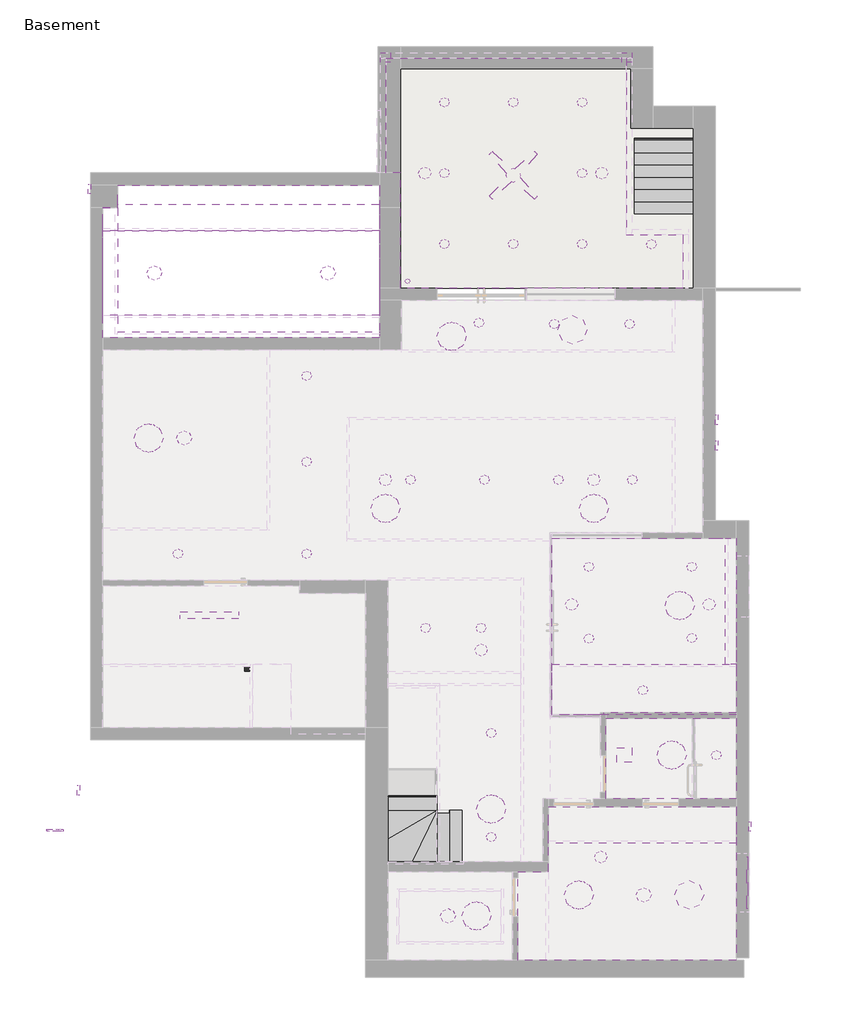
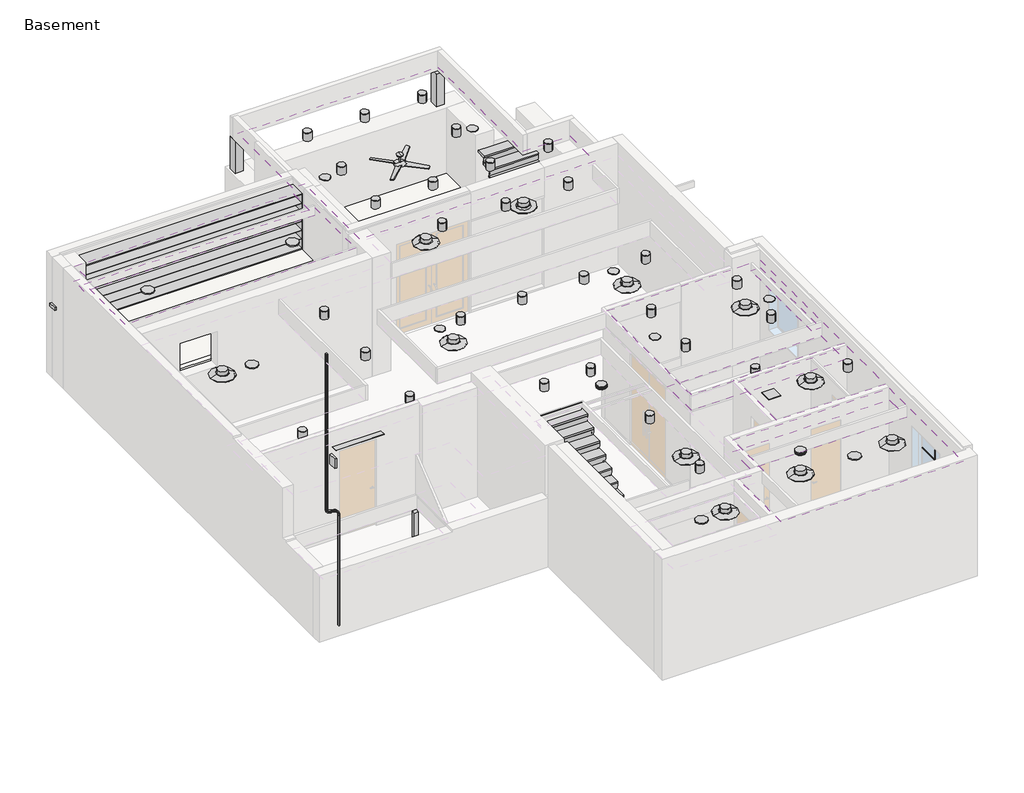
# One storey, part 3 of 3: 33 light fixtures, 33 proxies, 9 coverings, 3 columns, 3 slabs, 2 stair flights, 1 furniture element.
"""IFC4 building model written with IfcOpenShell, lengths in millimetres."""

from ifc_helpers import new_model, si_unit, point, frame, frame_2d, origin, place, context, project, spatial, polyline, circle_curve, trimmed, segment, composite_curve, outline, extrude, faceted_brep, transform, mapped, element, save
from components import generic_models_a077fc04, generic_models_1db58095, proxy_8f18e016, default_1_231b9623, downspout_downspout_4650_cdd577da, exhaust_fan_default_1_e91b617f, muntin_pattern_2x2_muntin_pattern_2x2_8235f178, round_air_diffuser_default_1_f7335ba9, round_air_diffuser_default_1_4e63e813, round_air_diffuser_default_1_b5902af6, security_camera_default_1_4da77557, speaker_default_1_aa482b27, wall_shelf_wall_shelf_b198690f, ceiling_fan_4_278a9ec8, linear_strip_light_default_1_7d063154, light_fixture_643521e1, light_fixture_e469d1bf, stair_flight_50mm_tread_25mm_nosing_13mm_riser_da69991a, stair_flight_50mm_tread_25mm_nosing_13mm_riser_1c29f03d

model = new_model("IFC4")

# Units and contexts
model_context = context("Model", 3, world=origin())
ifc_project = project(units=[si_unit("LENGTHUNIT", "METRE", prefix="MILLI")], contexts=[model_context])

# Site, building, storey
site = spatial("IfcSite", under=ifc_project)
building = spatial("IfcBuilding", under=site)
storey = spatial("IfcBuildingStorey", under=building, Name="Basement", Elevation=-3175.0)

# Proxies
placement = place(None, origin())
generic_models_shape = generic_models_a077fc04(model_context)
element("IfcBuildingElementProxy", 1, Name="Wall  Protrusion : Wall  Protrusion", ObjectType="Wall  Protrusion : Wall  Protrusion", at=placement, inside=storey, context=model_context, shape_type="MappedRepresentation", body=[
    mapped(generic_models_shape, transform((20984.4517773, 10222.2013405, -609.6), x_axis=(0.0, 1.0, 0.0), y_axis=(0.0, 0.0, 1.0), z_axis=(1.0, 0.0, 0.0))),
])
element("IfcBuildingElementProxy", 2, Name="Wall  Protrusion : Wall  Protrusion", ObjectType="Wall  Protrusion : Wall  Protrusion", at=placement, inside=storey, context=model_context, shape_type="MappedRepresentation", body=[
    mapped(generic_models_shape, transform((20984.4517773, 10755.6409405, -609.6), x_axis=(0.0, 1.0, 0.0), y_axis=(0.0, 0.0, 1.0), z_axis=(1.0, 0.0, 0.0))),
])
element("IfcBuildingElementProxy", 3, Name="Wall  Protrusion : Wall  Protrusion", ObjectType="Wall  Protrusion : Wall  Protrusion", at=placement, inside=storey, context=model_context, shape_type="MappedRepresentation", body=[
    mapped(generic_models_shape, transform((7814.4549773, 3078.4909405, 2320.0), x_axis=(0.0, -1.0, 0.0), y_axis=(0.0, 0.0, 1.0), z_axis=(-1.0, 0.0, 0.0))),
])
generic_models_2_shape = generic_models_1db58095(model_context)
element("IfcBuildingElementProxy", 4, Name="Wall  Protrusion : Wall  Protrusion", ObjectType="Wall  Protrusion : Wall  Protrusion", at=placement, inside=storey, context=model_context, shape_type="MappedRepresentation", body=[
    mapped(generic_models_2_shape, transform((21676.6017773, 2329.1909405, -135.0), x_axis=(0.0, 1.0, 0.0), y_axis=(0.0, 0.0, 1.0), z_axis=(1.0, 0.0, 0.0))),
])
element("IfcBuildingElementProxy", 5, Name="Wall  Protrusion : Wall  Protrusion", ObjectType="Wall  Protrusion : Wall  Protrusion", at=placement, inside=storey, context=model_context, shape_type="MappedRepresentation", body=[
    mapped(generic_models_2_shape, transform((8043.1517773, 15532.4409405, -1244.6), x_axis=(0.0, -1.0, 0.0), y_axis=(0.0, 0.0, 1.0), z_axis=(-1.0, 0.0, 0.0))),
])
proxy_shape = proxy_8f18e016(model_context)
element("IfcBuildingElementProxy", 6, Name="Ceiling Mounted Light : 2'-0\"", ObjectType="Ceiling Mounted Light : 2'-0\"", at=placement, inside=storey, context=model_context, shape_type="MappedRepresentation", body=[
    mapped(proxy_shape, transform((9980.1974773, 10374.6409405, -2768.6), x_axis=(1.0, 0.0, 0.0), y_axis=(0.0, 1.0, 0.0), z_axis=(0.0, 0.0, 1.0))),
])
element("IfcBuildingElementProxy", 7, Name="Ceiling Mounted Light : 2'-0\"", ObjectType="Ceiling Mounted Light : 2'-0\"", at=placement, inside=storey, context=model_context, shape_type="MappedRepresentation", body=[
    mapped(proxy_shape, transform((19504.9017773, 913.1409405, -2768.6), x_axis=(1.0, 0.0, 0.0), y_axis=(0.0, 1.0, 0.0), z_axis=(0.0, 0.0, 1.0))),
])
element("IfcBuildingElementProxy", 8, Name="Ceiling Mounted Light : 2'-0\"", ObjectType="Ceiling Mounted Light : 2'-0\"", at=placement, inside=storey, context=model_context, shape_type="MappedRepresentation", body=[
    mapped(proxy_shape, transform((15447.2517773, 481.3409405, -2768.6), x_axis=(1.0, 0.0, 0.0), y_axis=(0.0, 1.0, 0.0), z_axis=(0.0, 0.0, 1.0))),
])
element("IfcBuildingElementProxy", 9, Name="Ceiling Mounted Light : 2'-0\"", ObjectType="Ceiling Mounted Light : 2'-0\"", at=placement, inside=storey, context=model_context, shape_type="MappedRepresentation", body=[
    mapped(proxy_shape, transform((9363.9517773, 13794.1159405, -2667.0), x_axis=(1.0, 0.0, 0.0), y_axis=(0.0, 1.0, 0.0), z_axis=(0.0, 0.0, 1.0))),
])
element("IfcBuildingElementProxy", 10, Name="Ceiling Mounted Light : 2'-0\"", ObjectType="Ceiling Mounted Light : 2'-0\"", at=placement, inside=storey, context=model_context, shape_type="MappedRepresentation", body=[
    mapped(proxy_shape, transform((12960.4174773, 13794.1159405, -2667.0), x_axis=(1.0, 0.0, 0.0), y_axis=(0.0, 1.0, 0.0), z_axis=(0.0, 0.0, 1.0))),
])
default_1_shape = default_1_231b9623(model_context)
element("IfcBuildingElementProxy", 11, Name="Smoke & Carbon Monoxide Detector : Default 1", ObjectType="Smoke & Carbon Monoxide Detector : Default 1", at=placement, inside=storey, context=model_context, shape_type="MappedRepresentation", body=[
    mapped(default_1_shape, transform((16133.0517773, 5986.7909405, -2768.6), x_axis=(1.0, 0.0, 0.0), y_axis=(0.0, 1.0, 0.0), z_axis=(0.0, 0.0, 1.0))),
])
element("IfcBuildingElementProxy", 12, Name="Smoke & Carbon Monoxide Detector : Default 1", ObjectType="Smoke & Carbon Monoxide Detector : Default 1", at=placement, inside=storey, context=model_context, shape_type="MappedRepresentation", body=[
    mapped(default_1_shape, transform((18615.9017773, 1700.5409405, -2768.6), x_axis=(1.0, 0.0, 0.0), y_axis=(0.0, 1.0, 0.0), z_axis=(0.0, 0.0, 1.0))),
])
downspout_downspout_4650_shape = downspout_downspout_4650_cdd577da(model_context)
element("IfcBuildingElementProxy", 13, Name="Downspout : Downspout_4650", ObjectType="Downspout : Downspout_4650", at=placement, inside=storey, context=model_context, shape_type="MappedRepresentation", body=[
    mapped(downspout_downspout_4650_shape, transform((7452.5049773, 2252.9909405, -1371.6), x_axis=(0.0, -1.0, 0.0), y_axis=(1.0, 0.0, 0.0), z_axis=(0.0, 0.0, 1.0))),
])
exhaust_fan_default_1_shape = exhaust_fan_default_1_e91b617f(model_context)
element("IfcBuildingElementProxy", 14, Name="Exhaust Fan : Default 1", ObjectType="Exhaust Fan : Default 1", at=placement, inside=storey, context=model_context, shape_type="MappedRepresentation", body=[
    mapped(exhaust_fan_default_1_shape, transform((19104.8517773, 3808.7409405, -2768.6), x_axis=(1.0, 0.0, 0.0), y_axis=(0.0, 1.0, 0.0), z_axis=(0.0, 0.0, 1.0))),
])
muntin_pattern_2x2_muntin_pattern_2x2_shape = muntin_pattern_2x2_muntin_pattern_2x2_8235f178(model_context)
element("IfcBuildingElementProxy", 15, Name="Muntin Pattern_2x2 : Muntin Pattern_2x2", ObjectType="Muntin Pattern_2x2 : Muntin Pattern_2x2", at=placement, inside=storey, context=model_context, shape_type="MappedRepresentation", body=[
    mapped(muntin_pattern_2x2_muntin_pattern_2x2_shape, transform((21667.0767773, 1167.1409405, -1885.95), x_axis=(0.0, -1.0, 0.0), y_axis=(1.0, 0.0, 0.0), z_axis=(0.0, 0.0, 1.0))),
])
round_air_diffuser_default_1_shape = round_air_diffuser_default_1_f7335ba9(model_context)
element("IfcBuildingElementProxy", 16, Name="Round Air Diffuser : Default 1", ObjectType="Round Air Diffuser : Default 1", at=placement, inside=storey, context=model_context, shape_type="MappedRepresentation", body=[
    mapped(round_air_diffuser_default_1_shape, transform((16037.8017773, 481.3409405, -2768.6), x_axis=(1.0, 0.0, 0.0), y_axis=(0.0, 1.0, 0.0), z_axis=(0.0, 0.0, 1.0))),
])
element("IfcBuildingElementProxy", 17, Name="Round Air Diffuser : Default 1", ObjectType="Round Air Diffuser : Default 1", at=placement, inside=storey, context=model_context, shape_type="MappedRepresentation", body=[
    mapped(round_air_diffuser_default_1_shape, transform((18158.7017773, 913.1409405, -2768.6), x_axis=(1.0, 0.0, 0.0), y_axis=(0.0, 1.0, 0.0), z_axis=(0.0, 0.0, 1.0))),
])
element("IfcBuildingElementProxy", 18, Name="Round Air Diffuser : Default 1", ObjectType="Round Air Diffuser : Default 1", at=placement, inside=storey, context=model_context, shape_type="MappedRepresentation", body=[
    mapped(round_air_diffuser_default_1_shape, transform((20082.7517773, 3808.7409405, -2768.6), x_axis=(1.0, 0.0, 0.0), y_axis=(0.0, 1.0, 0.0), z_axis=(0.0, 0.0, 1.0))),
])
element("IfcBuildingElementProxy", 19, Name="Round Air Diffuser : Default 1", ObjectType="Round Air Diffuser : Default 1", at=placement, inside=storey, context=model_context, shape_type="MappedRepresentation", body=[
    mapped(round_air_diffuser_default_1_shape, transform((20247.8517773, 6906.0206405, -2768.6), x_axis=(1.0, 0.0, 0.0), y_axis=(0.0, 1.0, 0.0), z_axis=(0.0, 0.0, 1.0))),
])
element("IfcBuildingElementProxy", 20, Name="Round Air Diffuser : Default 1", ObjectType="Round Air Diffuser : Default 1", at=placement, inside=storey, context=model_context, shape_type="MappedRepresentation", body=[
    mapped(round_air_diffuser_default_1_shape, transform((14151.8517773, 8920.4909405, -2768.6), x_axis=(1.0, 0.0, 0.0), y_axis=(0.0, 1.0, 0.0), z_axis=(0.0, 0.0, 1.0))),
])
element("IfcBuildingElementProxy", 21, Name="Round Air Diffuser : Default 1", ObjectType="Round Air Diffuser : Default 1", at=placement, inside=storey, context=model_context, shape_type="MappedRepresentation", body=[
    mapped(round_air_diffuser_default_1_shape, transform((18469.8517773, 8920.4909405, -2768.6), x_axis=(1.0, 0.0, 0.0), y_axis=(0.0, 1.0, 0.0), z_axis=(0.0, 0.0, 1.0))),
])
element("IfcBuildingElementProxy", 22, Name="Round Air Diffuser : Default 1", ObjectType="Round Air Diffuser : Default 1", at=placement, inside=storey, context=model_context, shape_type="MappedRepresentation", body=[
    mapped(round_air_diffuser_default_1_shape, transform((15523.4517773, 12482.8409405, -2768.6), x_axis=(1.0, 0.0, 0.0), y_axis=(0.0, 1.0, 0.0), z_axis=(0.0, 0.0, 1.0))),
])
element("IfcBuildingElementProxy", 23, Name="Round Air Diffuser : Default 1", ObjectType="Round Air Diffuser : Default 1", at=placement, inside=storey, context=model_context, shape_type="MappedRepresentation", body=[
    mapped(round_air_diffuser_default_1_shape, transform((9243.5974773, 10374.6409405, -2768.6), x_axis=(1.0, 0.0, 0.0), y_axis=(0.0, 1.0, 0.0), z_axis=(0.0, 0.0, 1.0))),
])
element("IfcBuildingElementProxy", 24, Name="Round Air Diffuser : Default 1", ObjectType="Round Air Diffuser : Default 1", at=placement, inside=storey, context=model_context, shape_type="MappedRepresentation", body=[
    mapped(round_air_diffuser_default_1_shape, transform((16342.6017773, 2691.1409405, -2768.6), x_axis=(1.0, 0.0, 0.0), y_axis=(0.0, 1.0, 0.0), z_axis=(0.0, 0.0, 1.0))),
])
round_air_diffuser_default_1_2_shape = round_air_diffuser_default_1_4e63e813(model_context)
element("IfcBuildingElementProxy", 25, Name="Round Air Diffuser : Default 1", ObjectType="Round Air Diffuser : Default 1", at=placement, inside=storey, context=model_context, shape_type="MappedRepresentation", body=[
    mapped(round_air_diffuser_default_1_2_shape, transform((20444.7017773, 913.1409405, -2768.6), x_axis=(-1.0, 0.0, 0.0), y_axis=(0.0, -1.0, 0.0), z_axis=(0.0, 0.0, 1.0))),
])
round_air_diffuser_default_1_3_shape = round_air_diffuser_default_1_b5902af6(model_context)
element("IfcBuildingElementProxy", 26, Name="Round Air Diffuser : Default 1", ObjectType="Round Air Diffuser : Default 1", at=placement, inside=storey, context=model_context, shape_type="MappedRepresentation", body=[
    mapped(round_air_diffuser_default_1_3_shape, transform((18027.3164049, 12482.8409405, -2768.6), x_axis=(1.0, 0.0, 0.0), y_axis=(0.0, 1.0, 0.0), z_axis=(0.0, 0.0, 1.0))),
])
security_camera_default_1_shape = security_camera_default_1_4da77557(model_context)
element("IfcBuildingElementProxy", 27, Name="Security Camera : Default 1", ObjectType="Security Camera : Default 1", at=placement, inside=storey, context=model_context, shape_type="MappedRepresentation", body=[
    mapped(security_camera_default_1_shape, transform((15066.2517773, 13371.8409405, -2921.0), x_axis=(0.0, 1.0, 0.0), y_axis=(-1.0, 0.0, 0.0), z_axis=(0.0, 0.0, 1.0))),
])
speaker_default_1_shape = speaker_default_1_aa482b27(model_context)
element("IfcBuildingElementProxy", 28, Name="Speaker : Default 1", ObjectType="Speaker : Default 1", at=placement, inside=storey, context=model_context, shape_type="MappedRepresentation", body=[
    mapped(speaker_default_1_shape, transform((14151.8517773, 9511.0409405, -2768.6), x_axis=(0.0, 1.0, 0.0), y_axis=(-1.0, 0.0, 0.0), z_axis=(0.0, 0.0, 1.0))),
])
element("IfcBuildingElementProxy", 29, Name="Speaker : Default 1", ObjectType="Speaker : Default 1", at=placement, inside=storey, context=model_context, shape_type="MappedRepresentation", body=[
    mapped(speaker_default_1_shape, transform((18469.8517773, 9511.0409405, -2768.6), x_axis=(0.0, 1.0, 0.0), y_axis=(-1.0, 0.0, 0.0), z_axis=(0.0, 0.0, 1.0))),
])
element("IfcBuildingElementProxy", 30, Name="Speaker : Default 1", ObjectType="Speaker : Default 1", at=placement, inside=storey, context=model_context, shape_type="MappedRepresentation", body=[
    mapped(speaker_default_1_shape, transform((18634.9517773, 15861.0409405, -2921.0), x_axis=(0.0, 1.0, 0.0), y_axis=(-1.0, 0.0, 0.0), z_axis=(0.0, 0.0, 1.0))),
])
element("IfcBuildingElementProxy", 31, Name="Speaker : Default 1", ObjectType="Speaker : Default 1", at=placement, inside=storey, context=model_context, shape_type="MappedRepresentation", body=[
    mapped(speaker_default_1_shape, transform((14967.0174773, 15861.0409405, -2921.0), x_axis=(0.0, 1.0, 0.0), y_axis=(-1.0, 0.0, 0.0), z_axis=(0.0, 0.0, 1.0))),
])
element("IfcBuildingElementProxy", 32, Name="Speaker : Default 1", ObjectType="Speaker : Default 1", at=placement, inside=storey, context=model_context, shape_type="MappedRepresentation", body=[
    mapped(speaker_default_1_shape, transform((18012.6517773, 6931.4206405, -2768.6), x_axis=(0.0, 1.0, 0.0), y_axis=(-1.0, 0.0, 0.0), z_axis=(0.0, 0.0, 1.0))),
])
element("IfcBuildingElementProxy", 33, Name="Speaker : Default 1", ObjectType="Speaker : Default 1", at=placement, inside=storey, context=model_context, shape_type="MappedRepresentation", body=[
    mapped(speaker_default_1_shape, transform((20857.4517773, 6931.4206405, -2768.6), x_axis=(0.0, 1.0, 0.0), y_axis=(-1.0, 0.0, 0.0), z_axis=(0.0, 0.0, 1.0))),
])

# Columns
element("IfcColumn", 34, ObjectType="Rectangular Column 3D : Default 1", at=placement, inside=storey, context=model_context, shape_type="SweptSolid", body=[
    extrude(outline(polyline([(11332.4517773, 5643.8909405), (11332.4517773, 5542.2909405), (11230.8517773, 5542.2909405), (11230.8517773, 5643.8909405), (11332.4517773, 5643.8909405)])), frame((0.0, 0.0, -3175.0), z_axis=(0.0, 0.0, 1.0), x_axis=(1.0, 0.0, 0.0)), (0.0, 0.0, 1.0), 1422.4),
])
element("IfcColumn", 35, ObjectType="Rectangular Column 3D : Default 1", at=placement, inside=storey, context=model_context, shape_type="SweptSolid", body=[
    extrude(outline(polyline([(14253.4517773, 18356.5909405), (14253.4517773, 18153.3909405), (14050.2517773, 18153.3909405), (14050.2517773, 18356.5909405), (14253.4517773, 18356.5909405)])), frame((0.0, 0.0, -1447.8), z_axis=(0.0, 0.0, 1.0), x_axis=(1.0, 0.0, 0.0)), (0.0, 0.0, 1.0), 863.6),
])
element("IfcColumn", 36, ObjectType="Rectangular Column 3D : Default 1", at=placement, inside=storey, context=model_context, shape_type="SweptSolid", body=[
    extrude(outline(polyline([(19257.2517773, 18356.5909405), (19257.2517773, 18153.3909405), (19054.0517773, 18153.3909405), (19054.0517773, 18356.5909405), (19257.2517773, 18356.5909405)])), frame((0.0, 0.0, -1447.8), z_axis=(0.0, 0.0, 1.0), x_axis=(1.0, 0.0, 0.0)), (0.0, 0.0, 1.0), 863.6),
])

# Coverings
element("IfcCovering", 37, ObjectType="1/2\" Ceiling", at=placement, inside=storey, context=model_context, shape_type="SweptSolid", body=[
    extrude(outline(polyline([(21422.6017773, 2741.9409405), (21422.6017773, -439.4090595), (16895.0517773, -439.4090595), (16895.0517773, 1395.7409405), (17530.0517773, 1395.7409405), (17530.0517773, 2741.9409405), (21422.6017773, 2741.9409405)])), frame((0.0, 0.0, -330.2), z_axis=(0.0, 0.0, 1.0), x_axis=(1.0, 0.0, 0.0)), (0.0, 0.0, 1.0), 12.7),
])
element("IfcCovering", 38, ObjectType="1/2\" Ceiling", at=placement, inside=storey, context=model_context, shape_type="SweptSolid", body=[
    extrude(outline(polyline([(21422.6017773, 2907.0409405), (18723.8517773, 2907.0409405), (18723.8517773, 4570.7409405), (21422.6017773, 4570.7409405), (21422.6017773, 2907.0409405)]), holes=[composite_curve([segment(trimmed(circle_curve(frame_2d((21009.8517773, 3808.7409405)), 87.3), [point((21097.1517773, 3808.7409405))], [point((20922.5517773, 3808.7409405))], True, "CARTESIAN"), True, "CONTINUOUS"), segment(trimmed(circle_curve(frame_2d((21009.8517773, 3808.7409405)), 87.3), [point((20922.5517773, 3808.7409405))], [point((21097.1517773, 3808.7409405))], True, "CARTESIAN"), True, "CONTINUOUS")], self_intersect=False)]), frame((0.0, 0.0, -330.2), z_axis=(0.0, 0.0, 1.0), x_axis=(1.0, 0.0, 0.0)), (0.0, 0.0, 1.0), 12.7),
])
element("IfcCovering", 39, ObjectType="1/2\" Ceiling", at=placement, inside=storey, context=model_context, shape_type="SweptSolid", body=[
    extrude(outline(polyline([(19460.4517773, 8304.5409405), (20857.4517773, 8304.5409405), (21422.6017773, 8304.5409405), (21422.6017773, 4685.0409405), (18666.7017773, 4685.0409405), (18666.7017773, 4646.9409405), (17606.2517773, 4646.9409405), (17606.2517773, 8304.5409405), (19460.4517773, 8304.5409405)]), holes=[composite_curve([segment(trimmed(circle_curve(frame_2d((18368.2517773, 7707.6409405)), 87.3), [point((18455.5517773, 7707.6409405))], [point((18280.9517773, 7707.6409405))], True, "CARTESIAN"), True, "CONTINUOUS"), segment(trimmed(circle_curve(frame_2d((18368.2517773, 7707.6409405)), 87.3), [point((18280.9517773, 7707.6409405))], [point((18455.5517773, 7707.6409405))], True, "CARTESIAN"), True, "CONTINUOUS")], self_intersect=False), composite_curve([segment(trimmed(circle_curve(frame_2d((20501.8517773, 7707.6409405)), 87.3), [point((20589.1517773, 7707.6409405))], [point((20414.5517773, 7707.6409405))], True, "CARTESIAN"), True, "CONTINUOUS"), segment(trimmed(circle_curve(frame_2d((20501.8517773, 7707.6409405)), 87.3), [point((20414.5517773, 7707.6409405))], [point((20589.1517773, 7707.6409405))], True, "CARTESIAN"), True, "CONTINUOUS")], self_intersect=False), composite_curve([segment(trimmed(circle_curve(frame_2d((20501.8517773, 6234.4409405)), 87.3), [point((20414.5517773, 6234.4409405))], [point((20589.1517773, 6234.4409405))], True, "CARTESIAN"), True, "CONTINUOUS"), segment(trimmed(circle_curve(frame_2d((20501.8517773, 6234.4409405)), 87.3), [point((20589.1517773, 6234.4409405))], [point((20414.5517773, 6234.4409405))], True, "CARTESIAN"), True, "CONTINUOUS")], self_intersect=False), composite_curve([segment(trimmed(circle_curve(frame_2d((18368.2517773, 6221.7409405)), 87.3), [point((18280.9517773, 6221.7409405))], [point((18455.5517773, 6221.7409405))], True, "CARTESIAN"), True, "CONTINUOUS"), segment(trimmed(circle_curve(frame_2d((18368.2517773, 6221.7409405)), 87.3), [point((18455.5517773, 6221.7409405))], [point((18280.9517773, 6221.7409405))], True, "CARTESIAN"), True, "CONTINUOUS")], self_intersect=False)]), frame((0.0, 0.0, -330.2), z_axis=(0.0, 0.0, 1.0), x_axis=(1.0, 0.0, 0.0)), (0.0, 0.0, 1.0), 12.7),
])
element("IfcCovering", 40, ObjectType="1/2\" Ceiling", at=placement, inside=storey, context=model_context, shape_type="SweptSolid", body=[
    extrude(outline(polyline([(14027.2174773, 12457.4409405), (8297.1517773, 12457.4409405), (8297.1517773, 12914.6409405), (14027.2174773, 12914.6409405), (14027.2174773, 12457.4409405)])), frame((0.0, 0.0, -431.8), z_axis=(0.0, 0.0, 1.0), x_axis=(1.0, 0.0, 0.0)), (0.0, 0.0, 1.0), 12.7),
    extrude(outline(polyline([(8601.9517773, 15613.3909405), (14027.2174773, 15613.3909405), (14027.2174773, 14673.5909405), (8297.1517773, 14673.5909405), (8297.1517773, 15144.3463405), (8601.9517773, 15144.3463405), (8601.9517773, 15613.3909405)])), frame((0.0, 0.0, -431.8), z_axis=(0.0, 0.0, 1.0), x_axis=(1.0, 0.0, 0.0)), (0.0, 0.0, 1.0), 12.7),
])
element("IfcCovering", 41, ObjectType="1/2\" Ceiling", at=placement, inside=storey, context=model_context, shape_type="SweptSolid", body=[
    extrude(outline(polyline([(17606.2517773, 4646.9409405), (17606.2517773, 5688.3409405), (21422.6017773, 5688.3409405), (21422.6017773, 4646.9409405), (17606.2517773, 4646.9409405)]), holes=[composite_curve([segment(trimmed(circle_curve(frame_2d((19485.8517773, 5154.9409405)), 87.3), [point((19573.1517773, 5154.9409405))], [point((19398.5517773, 5154.9409405))], True, "CARTESIAN"), True, "CONTINUOUS"), segment(trimmed(circle_curve(frame_2d((19485.8517773, 5154.9409405)), 87.3), [point((19398.5517773, 5154.9409405))], [point((19573.1517773, 5154.9409405))], True, "CARTESIAN"), True, "CONTINUOUS")], self_intersect=False)]), frame((0.0, 0.0, -736.6), z_axis=(0.0, 0.0, 1.0), x_axis=(1.0, 0.0, 0.0)), (0.0, 0.0, 1.0), 12.7),
])
element("IfcCovering", 42, ObjectType="1/2\" Ceiling", at=placement, inside=storey, context=model_context, shape_type="SweptSolid", body=[
    extrude(outline(polyline([(21194.0017773, 5688.3409405), (21194.0017773, 8304.5409405), (21422.6017773, 8304.5409405), (21422.6017773, 5688.3409405), (21194.0017773, 5688.3409405)])), frame((0.0, 0.0, -533.4), z_axis=(0.0, 0.0, 1.0), x_axis=(1.0, 0.0, 0.0)), (0.0, 0.0, 1.0), 12.7),
])
element("IfcCovering", 43, ObjectType="1/2\" Ceiling", at=placement, inside=storey, context=model_context, shape_type="SweptSolid", body=[
    extrude(outline(polyline([(16895.0517773, 1395.7409405), (17530.0517773, 1395.7409405), (17530.0517773, -439.4090595), (16895.0517773, -439.4090595), (16895.0517773, 1395.7409405)])), frame((0.0, 0.0, -635.0), z_axis=(0.0, 0.0, 1.0), x_axis=(1.0, 0.0, 0.0)), (0.0, 0.0, 1.0), 12.7),
    extrude(outline(polyline([(17530.0517773, 2741.9409405), (21422.6017773, 2741.9409405), (21422.6017773, 1979.9409405), (17530.0517773, 1979.9409405), (17530.0517773, 2741.9409405)])), frame((0.0, 0.0, -635.0), z_axis=(0.0, 0.0, 1.0), x_axis=(1.0, 0.0, 0.0)), (0.0, 0.0, 1.0), 12.7),
])
element("IfcCovering", 44, ObjectType="1/2\" Ceiling", at=placement, inside=storey, context=model_context, shape_type="SweptSolid", body=[
    extrude(outline(polyline([(14027.2174773, 12914.6409405), (8297.1517773, 12914.6409405), (8297.1517773, 14673.5909405), (14027.2174773, 14673.5909405), (14027.2174773, 12914.6409405)])), frame((0.0, 0.0, -228.6), z_axis=(0.0, 0.0, 1.0), x_axis=(1.0, 0.0, 0.0)), (0.0, 0.0, 1.0), 12.7),
])
element("IfcCovering", 45, ObjectType="1/2\" Ceiling", at=placement, inside=storey, context=model_context, shape_type="SweptSolid", body=[
    extrude(outline(polyline([(20311.3517773, 13479.7909405), (14459.0174773, 13479.7909405), (14459.0174773, 15867.3909405), (14164.5517773, 15867.3909405), (14164.5517773, 18242.2909405), (14459.0174773, 18242.2909405), (19142.9517773, 18242.2909405), (19142.9517773, 14584.6909405), (20311.3517773, 14584.6909405), (20311.3517773, 13479.7909405)]), holes=[composite_curve([segment(trimmed(circle_curve(frame_2d((15373.4174773, 14394.1909405)), 87.3), [point((15460.7174773, 14394.1909405))], [point((15286.1174773, 14394.1909405))], True, "CARTESIAN"), True, "CONTINUOUS"), segment(trimmed(circle_curve(frame_2d((15373.4174773, 14394.1909405)), 87.3), [point((15286.1174773, 14394.1909405))], [point((15460.7174773, 14394.1909405))], True, "CARTESIAN"), True, "CONTINUOUS")], self_intersect=False), composite_curve([segment(trimmed(circle_curve(frame_2d((15373.4174773, 17327.8909405)), 87.3), [point((15460.7174773, 17327.8909405))], [point((15286.1174773, 17327.8909405))], True, "CARTESIAN"), True, "CONTINUOUS"), segment(trimmed(circle_curve(frame_2d((15373.4174773, 17327.8909405)), 87.3), [point((15286.1174773, 17327.8909405))], [point((15460.7174773, 17327.8909405))], True, "CARTESIAN"), True, "CONTINUOUS")], self_intersect=False), composite_curve([segment(trimmed(circle_curve(frame_2d((18228.5517773, 17327.8909405)), 87.3), [point((18315.8517773, 17327.8909405))], [point((18141.2517773, 17327.8909405))], True, "CARTESIAN"), True, "CONTINUOUS"), segment(trimmed(circle_curve(frame_2d((18228.5517773, 17327.8909405)), 87.3), [point((18141.2517773, 17327.8909405))], [point((18315.8517773, 17327.8909405))], True, "CARTESIAN"), True, "CONTINUOUS")], self_intersect=False), composite_curve([segment(trimmed(circle_curve(frame_2d((18228.5517773, 14394.1909405)), 87.3), [point((18315.8517773, 14394.1909405))], [point((18141.2517773, 14394.1909405))], True, "CARTESIAN"), True, "CONTINUOUS"), segment(trimmed(circle_curve(frame_2d((18228.5517773, 14394.1909405)), 87.3), [point((18141.2517773, 14394.1909405))], [point((18315.8517773, 14394.1909405))], True, "CARTESIAN"), True, "CONTINUOUS")], self_intersect=False), composite_curve([segment(trimmed(circle_curve(frame_2d((16800.9846273, 14394.1909405)), 87.3), [point((16888.2846273, 14394.1909405))], [point((16713.6846273, 14394.1909405))], True, "CARTESIAN"), True, "CONTINUOUS"), segment(trimmed(circle_curve(frame_2d((16800.9846273, 14394.1909405)), 87.3), [point((16713.6846273, 14394.1909405))], [point((16888.2846273, 14394.1909405))], True, "CARTESIAN"), True, "CONTINUOUS")], self_intersect=False), composite_curve([segment(trimmed(circle_curve(frame_2d((18228.5517773, 15861.0409405)), 87.3), [point((18315.8517773, 15861.0409405))], [point((18141.2517773, 15861.0409405))], True, "CARTESIAN"), True, "CONTINUOUS"), segment(trimmed(circle_curve(frame_2d((18228.5517773, 15861.0409405)), 87.3), [point((18141.2517773, 15861.0409405))], [point((18315.8517773, 15861.0409405))], True, "CARTESIAN"), True, "CONTINUOUS")], self_intersect=False), composite_curve([segment(trimmed(circle_curve(frame_2d((15373.4174773, 15861.0409405)), 87.3), [point((15460.7174773, 15861.0409405))], [point((15286.1174773, 15861.0409405))], True, "CARTESIAN"), True, "CONTINUOUS"), segment(trimmed(circle_curve(frame_2d((15373.4174773, 15861.0409405)), 87.3), [point((15286.1174773, 15861.0409405))], [point((15460.7174773, 15861.0409405))], True, "CARTESIAN"), True, "CONTINUOUS")], self_intersect=False), composite_curve([segment(trimmed(circle_curve(frame_2d((16800.9846273, 17327.8909405)), 87.3), [point((16888.2846273, 17327.8909405))], [point((16713.6846273, 17327.8909405))], True, "CARTESIAN"), True, "CONTINUOUS"), segment(trimmed(circle_curve(frame_2d((16800.9846273, 17327.8909405)), 87.3), [point((16713.6846273, 17327.8909405))], [point((16888.2846273, 17327.8909405))], True, "CARTESIAN"), True, "CONTINUOUS")], self_intersect=False), composite_curve([segment(trimmed(circle_curve(frame_2d((19663.6517773, 14387.8409405)), 87.3), [point((19750.9517773, 14387.8409405))], [point((19576.3517773, 14387.8409405))], True, "CARTESIAN"), True, "CONTINUOUS"), segment(trimmed(circle_curve(frame_2d((19663.6517773, 14387.8409405)), 87.3), [point((19576.3517773, 14387.8409405))], [point((19750.9517773, 14387.8409405))], True, "CARTESIAN"), True, "CONTINUOUS")], self_intersect=False)]), frame((0.0, 0.0, -482.6), z_axis=(0.0, 0.0, 1.0), x_axis=(1.0, 0.0, 0.0)), (0.0, 0.0, 1.0), 12.7),
])

# Furniture
wall_shelf_wall_shelf_shape = wall_shelf_wall_shelf_b198690f(model_context)
element("IfcFurniture", 46, ObjectType="Wall Shelf : Wall Shelf", at=placement, inside=storey, context=model_context, shape_type="MappedRepresentation", body=[
    mapped(wall_shelf_wall_shelf_shape, transform((11314.5846273, 15410.1909405, -1651.0), x_axis=(1.0, 0.0, 0.0), y_axis=(0.0, 1.0, 0.0), z_axis=(0.0, 0.0, 1.0))),
])

# Light fixtures
ceiling_fan_4_shape = ceiling_fan_4_278a9ec8(model_context)
element("IfcLightFixture", 47, ObjectType="Ceiling Fan : 4'", at=placement, inside=storey, context=model_context, shape_type="MappedRepresentation", body=[
    mapped(ceiling_fan_4_shape, transform((16800.9846273, 15816.5909405, -482.6), x_axis=(1.0, 0.0, 0.0), y_axis=(0.0, -1.0, 0.0), z_axis=(0.0, 0.0, -1.0))),
])
linear_strip_light_default_1_shape = linear_strip_light_default_1_7d063154(model_context)
element("IfcLightFixture", 48, ObjectType="Linear Strip Light : Default 1", at=placement, inside=storey, context=model_context, shape_type="MappedRepresentation", body=[
    mapped(linear_strip_light_default_1_shape, transform((10354.5517773, 6761.4909405, -2768.6), x_axis=(1.0, 0.0, 0.0), y_axis=(0.0, 1.0, 0.0), z_axis=(0.0, 0.0, 1.0))),
])
light_fixture_shape = light_fixture_643521e1(model_context)
element("IfcLightFixture", 49, ObjectType="Recessed Pot Light : 8\"", at=placement, inside=storey, context=model_context, shape_type="MappedRepresentation", body=[
    mapped(light_fixture_shape, transform((14672.5517773, 9511.0409405, -2768.6), x_axis=(1.0, 0.0, 0.0), y_axis=(0.0, 1.0, 0.0), z_axis=(0.0, 0.0, 1.0))),
])
element("IfcLightFixture", 50, ObjectType="Recessed Pot Light : 8\"", at=placement, inside=storey, context=model_context, shape_type="MappedRepresentation", body=[
    mapped(light_fixture_shape, transform((16205.0219773, 9511.0409405, -2768.6), x_axis=(1.0, 0.0, 0.0), y_axis=(0.0, 1.0, 0.0), z_axis=(0.0, 0.0, 1.0))),
])
element("IfcLightFixture", 51, ObjectType="Recessed Pot Light : 8\"", at=placement, inside=storey, context=model_context, shape_type="MappedRepresentation", body=[
    mapped(light_fixture_shape, transform((17737.4921773, 9511.0409405, -2768.6), x_axis=(1.0, 0.0, 0.0), y_axis=(0.0, 1.0, 0.0), z_axis=(0.0, 0.0, 1.0))),
])
element("IfcLightFixture", 52, ObjectType="Recessed Pot Light : 8\"", at=placement, inside=storey, context=model_context, shape_type="MappedRepresentation", body=[
    mapped(light_fixture_shape, transform((19269.9623773, 9511.0409405, -2768.6), x_axis=(1.0, 0.0, 0.0), y_axis=(0.0, 1.0, 0.0), z_axis=(0.0, 0.0, 1.0))),
])
element("IfcLightFixture", 53, ObjectType="Recessed Pot Light : 8\"", at=placement, inside=storey, context=model_context, shape_type="MappedRepresentation", body=[
    mapped(light_fixture_shape, transform((19212.8123773, 12736.8409405, -2768.6), x_axis=(1.0, 0.0, 0.0), y_axis=(0.0, 1.0, 0.0), z_axis=(0.0, 0.0, 1.0))),
])
element("IfcLightFixture", 54, ObjectType="Recessed Pot Light : 8\"", at=placement, inside=storey, context=model_context, shape_type="MappedRepresentation", body=[
    mapped(light_fixture_shape, transform((17650.7123773, 12736.8409405, -2768.6), x_axis=(1.0, 0.0, 0.0), y_axis=(0.0, 1.0, 0.0), z_axis=(0.0, 0.0, 1.0))),
])
element("IfcLightFixture", 55, ObjectType="Recessed Pot Light : 8\"", at=placement, inside=storey, context=model_context, shape_type="MappedRepresentation", body=[
    mapped(light_fixture_shape, transform((16088.6123773, 12762.2409405, -2768.6), x_axis=(1.0, 0.0, 0.0), y_axis=(0.0, 1.0, 0.0), z_axis=(0.0, 0.0, 1.0))),
])
element("IfcLightFixture", 56, ObjectType="Recessed Pot Light : 8\"", at=placement, inside=storey, context=model_context, shape_type="MappedRepresentation", body=[
    mapped(light_fixture_shape, transform((18368.2517773, 7707.6409405, -2768.6), x_axis=(1.0, 0.0, 0.0), y_axis=(0.0, 1.0, 0.0), z_axis=(0.0, 0.0, 1.0))),
])
element("IfcLightFixture", 57, ObjectType="Recessed Pot Light : 8\"", at=placement, inside=storey, context=model_context, shape_type="MappedRepresentation", body=[
    mapped(light_fixture_shape, transform((20501.8517773, 7707.6409405, -2768.6), x_axis=(1.0, 0.0, 0.0), y_axis=(0.0, 1.0, 0.0), z_axis=(0.0, 0.0, 1.0))),
])
element("IfcLightFixture", 58, ObjectType="Recessed Pot Light : 8\"", at=placement, inside=storey, context=model_context, shape_type="MappedRepresentation", body=[
    mapped(light_fixture_shape, transform((19485.8517773, 5154.9409405, -3175.0), x_axis=(1.0, 0.0, 0.0), y_axis=(0.0, 1.0, 0.0), z_axis=(0.0, 0.0, 1.0))),
])
element("IfcLightFixture", 59, ObjectType="Recessed Pot Light : 8\"", at=placement, inside=storey, context=model_context, shape_type="MappedRepresentation", body=[
    mapped(light_fixture_shape, transform((21009.8517773, 3808.7409405, -2768.6), x_axis=(1.0, 0.0, 0.0), y_axis=(0.0, 1.0, 0.0), z_axis=(0.0, 0.0, 1.0))),
])
element("IfcLightFixture", 60, ObjectType="Recessed Pot Light : 8\"", at=placement, inside=storey, context=model_context, shape_type="MappedRepresentation", body=[
    mapped(light_fixture_shape, transform((16342.6017773, 2113.2909405, -2768.6), x_axis=(1.0, 0.0, 0.0), y_axis=(0.0, 1.0, 0.0), z_axis=(0.0, 0.0, 1.0))),
])
element("IfcLightFixture", 61, ObjectType="Recessed Pot Light : 8\"", at=placement, inside=storey, context=model_context, shape_type="MappedRepresentation", body=[
    mapped(light_fixture_shape, transform((16342.6017773, 4265.9409405, -2768.6), x_axis=(1.0, 0.0, 0.0), y_axis=(0.0, 1.0, 0.0), z_axis=(0.0, 0.0, 1.0))),
])
element("IfcLightFixture", 62, ObjectType="Recessed Pot Light : 8\"", at=placement, inside=storey, context=model_context, shape_type="MappedRepresentation", body=[
    mapped(light_fixture_shape, transform((14983.7017773, 6443.9909405, -2768.6), x_axis=(1.0, 0.0, 0.0), y_axis=(0.0, 1.0, 0.0), z_axis=(0.0, 0.0, 1.0))),
])
element("IfcLightFixture", 63, ObjectType="Recessed Pot Light : 8\"", at=placement, inside=storey, context=model_context, shape_type="MappedRepresentation", body=[
    mapped(light_fixture_shape, transform((16133.0517773, 6443.9909405, -2768.6), x_axis=(1.0, 0.0, 0.0), y_axis=(0.0, 1.0, 0.0), z_axis=(0.0, 0.0, 1.0))),
])
element("IfcLightFixture", 64, ObjectType="Recessed Pot Light : 8\"", at=placement, inside=storey, context=model_context, shape_type="MappedRepresentation", body=[
    mapped(light_fixture_shape, transform((9852.9017773, 7980.6909405, -3175.0), x_axis=(1.0, 0.0, 0.0), y_axis=(0.0, 1.0, 0.0), z_axis=(0.0, 0.0, 1.0))),
])
element("IfcLightFixture", 65, ObjectType="Recessed Pot Light : 8\"", at=placement, inside=storey, context=model_context, shape_type="MappedRepresentation", body=[
    mapped(light_fixture_shape, transform((12519.9985773, 7980.6909405, -3175.0), x_axis=(1.0, 0.0, 0.0), y_axis=(0.0, 1.0, 0.0), z_axis=(0.0, 0.0, 1.0))),
])
element("IfcLightFixture", 66, ObjectType="Recessed Pot Light : 8\"", at=placement, inside=storey, context=model_context, shape_type="MappedRepresentation", body=[
    mapped(light_fixture_shape, transform((12519.9985773, 9885.6909405, -3175.0), x_axis=(1.0, 0.0, 0.0), y_axis=(0.0, 1.0, 0.0), z_axis=(0.0, 0.0, 1.0))),
])
element("IfcLightFixture", 67, ObjectType="Recessed Pot Light : 8\"", at=placement, inside=storey, context=model_context, shape_type="MappedRepresentation", body=[
    mapped(light_fixture_shape, transform((12519.9985773, 11663.6909405, -3175.0), x_axis=(1.0, 0.0, 0.0), y_axis=(0.0, 1.0, 0.0), z_axis=(0.0, 0.0, 1.0))),
])
element("IfcLightFixture", 68, ObjectType="Recessed Pot Light : 8\"", at=placement, inside=storey, context=model_context, shape_type="MappedRepresentation", body=[
    mapped(light_fixture_shape, transform((15373.4174773, 14394.1909405, -2921.0), x_axis=(1.0, 0.0, 0.0), y_axis=(0.0, 1.0, 0.0), z_axis=(0.0, 0.0, 1.0))),
])
element("IfcLightFixture", 69, ObjectType="Recessed Pot Light : 8\"", at=placement, inside=storey, context=model_context, shape_type="MappedRepresentation", body=[
    mapped(light_fixture_shape, transform((15373.4174773, 17327.8909405, -2921.0), x_axis=(1.0, 0.0, 0.0), y_axis=(0.0, 1.0, 0.0), z_axis=(0.0, 0.0, 1.0))),
])
element("IfcLightFixture", 70, ObjectType="Recessed Pot Light : 8\"", at=placement, inside=storey, context=model_context, shape_type="MappedRepresentation", body=[
    mapped(light_fixture_shape, transform((18228.5517773, 17327.8909405, -2921.0), x_axis=(1.0, 0.0, 0.0), y_axis=(0.0, 1.0, 0.0), z_axis=(0.0, 0.0, 1.0))),
])
element("IfcLightFixture", 71, ObjectType="Recessed Pot Light : 8\"", at=placement, inside=storey, context=model_context, shape_type="MappedRepresentation", body=[
    mapped(light_fixture_shape, transform((18228.5517773, 14394.1909405, -2921.0), x_axis=(1.0, 0.0, 0.0), y_axis=(0.0, 1.0, 0.0), z_axis=(0.0, 0.0, 1.0))),
])
element("IfcLightFixture", 72, ObjectType="Recessed Pot Light : 8\"", at=placement, inside=storey, context=model_context, shape_type="MappedRepresentation", body=[
    mapped(light_fixture_shape, transform((16800.9846273, 14394.1909405, -2921.0), x_axis=(1.0, 0.0, 0.0), y_axis=(0.0, 1.0, 0.0), z_axis=(0.0, 0.0, 1.0))),
])
element("IfcLightFixture", 73, ObjectType="Recessed Pot Light : 8\"", at=placement, inside=storey, context=model_context, shape_type="MappedRepresentation", body=[
    mapped(light_fixture_shape, transform((18228.5517773, 15861.0409405, -2921.0), x_axis=(1.0, 0.0, 0.0), y_axis=(0.0, 1.0, 0.0), z_axis=(0.0, 0.0, 1.0))),
])
element("IfcLightFixture", 74, ObjectType="Recessed Pot Light : 8\"", at=placement, inside=storey, context=model_context, shape_type="MappedRepresentation", body=[
    mapped(light_fixture_shape, transform((15373.4174773, 15861.0409405, -2921.0), x_axis=(1.0, 0.0, 0.0), y_axis=(0.0, 1.0, 0.0), z_axis=(0.0, 0.0, 1.0))),
])
element("IfcLightFixture", 75, ObjectType="Recessed Pot Light : 8\"", at=placement, inside=storey, context=model_context, shape_type="MappedRepresentation", body=[
    mapped(light_fixture_shape, transform((16800.9846273, 17327.8909405, -2921.0), x_axis=(1.0, 0.0, 0.0), y_axis=(0.0, 1.0, 0.0), z_axis=(0.0, 0.0, 1.0))),
])
element("IfcLightFixture", 76, ObjectType="Recessed Pot Light : 8\"", at=placement, inside=storey, context=model_context, shape_type="MappedRepresentation", body=[
    mapped(light_fixture_shape, transform((19663.6517773, 14387.8409405, -2921.0), x_axis=(1.0, 0.0, 0.0), y_axis=(0.0, 1.0, 0.0), z_axis=(0.0, 0.0, 1.0))),
])
element("IfcLightFixture", 77, ObjectType="Recessed Pot Light : 8\"", at=placement, inside=storey, context=model_context, shape_type="MappedRepresentation", body=[
    mapped(light_fixture_shape, transform((20501.8517773, 6234.4409405, -2768.6), x_axis=(1.0, 0.0, 0.0), y_axis=(0.0, 1.0, 0.0), z_axis=(0.0, 0.0, 1.0))),
])
element("IfcLightFixture", 78, ObjectType="Recessed Pot Light : 8\"", at=placement, inside=storey, context=model_context, shape_type="MappedRepresentation", body=[
    mapped(light_fixture_shape, transform((18368.2517773, 6221.7409405, -2768.6), x_axis=(1.0, 0.0, 0.0), y_axis=(0.0, 1.0, 0.0), z_axis=(0.0, 0.0, 1.0))),
])
light_fixture_2_shape = light_fixture_e469d1bf(model_context)
element("IfcLightFixture", 79, ObjectType="Wall Mounted Light : 4\"", at=placement, inside=storey, context=model_context, shape_type="MappedRepresentation", body=[
    mapped(light_fixture_2_shape, transform((19123.9017773, 4634.2409405, -5613.4), x_axis=(-1.0, 0.0, 0.0), y_axis=(0.0, -1.0, 0.0), z_axis=(0.0, 0.0, 1.0))),
])

# Slabs
element("IfcSlab", 80, ObjectType="Ledge - 2\"", at=placement, inside=storey, context=model_context, shape_type="SweptSolid", body=[
    extrude(outline(polyline([(8601.9517773, 15613.3909405), (14027.2174773, 15613.3909405), (14027.2174773, 15156.1909405), (14027.2174773, 12457.4409405), (8297.1517773, 12457.4409405), (8297.1517773, 15156.1909405), (8601.9517773, 15156.1909405), (8601.9517773, 15613.3909405)])), frame((0.0, 0.0, -1701.8), z_axis=(0.0, 0.0, 1.0), x_axis=(1.0, 0.0, 0.0)), (0.0, 0.0, 1.0), 50.8),
])
element("IfcSlab", 81, ObjectType="Ledge - 2\"", at=placement, inside=storey, context=model_context, shape_type="Brep", body=[
    faceted_brep([(8297.1517773, 12457.4409405, -1549.4), (8297.1517773, 15144.3463405, -1549.4), (8601.9517773, 15144.3463405, -1549.4), (8601.9517773, 12578.0909405, -1549.4), (14027.2174773, 12578.0909405, -1549.4), (14027.2174773, 12527.2909405, -1549.4), (14027.2174773, 12457.4409405, -1549.4), (8297.1517773, 12457.4409405, -1498.6), (14027.2174773, 12457.4409405, -1498.6), (14027.2174773, 12578.0909405, -1498.6), (8601.9517773, 12578.0909405, -1498.6), (8601.9517773, 15144.3463405, -1498.6), (8297.1517773, 15144.3463405, -1498.6)], [[[0, 1, 2, 3, 4, 5, 6]], [[7, 8, 9, 10, 11, 12]], [[1, 0, 7, 12]], [[2, 1, 12, 11]], [[3, 2, 11, 10]], [[4, 3, 10, 9]], [[6, 5, 4, 9, 8]], [[0, 6, 8, 7]]]),
])
element("IfcSlab", 82, ObjectType="Ledge - 2\"", at=placement, inside=storey, context=model_context, shape_type="SweptSolid", body=[
    extrude(outline(polyline([(14459.0174773, 18026.3909405), (19238.2017773, 18026.3909405), (19238.2017773, 16794.4909405), (20527.2517773, 16794.4909405), (20527.2517773, 13479.7909405), (14459.0174773, 13479.7909405), (14459.0174773, 18026.3909405)])), frame((0.0, 0.0, -3225.8), z_axis=(0.0, 0.0, 1.0), x_axis=(1.0, 0.0, 0.0)), (0.0, 0.0, 1.0), 50.8),
])

# Stair flights
stair_flight_50mm_tread_25mm_nosing_13mm_riser_shape = stair_flight_50mm_tread_25mm_nosing_13mm_riser_da69991a(model_context)
element("IfcStairFlight", 83, ObjectType="50mm Tread 25mm Nosing 13mm Riser", at=placement, inside=storey, context=model_context, shape_type="MappedRepresentation", body=[
    mapped(stair_flight_50mm_tread_25mm_nosing_13mm_riser_shape, transform((0.0, 0.0, 0.0), x_axis=(1.0, 0.0, 0.0), y_axis=(0.0, 1.0, 0.0), z_axis=(0.0, 0.0, 1.0))),
])
stair_flight_50mm_tread_25mm_nosing_13mm_riser_2_shape = stair_flight_50mm_tread_25mm_nosing_13mm_riser_1c29f03d(model_context)
element("IfcStairFlight", 84, ObjectType="50mm Tread 25mm Nosing 13mm Riser", at=placement, inside=storey, context=model_context, shape_type="MappedRepresentation", body=[
    mapped(stair_flight_50mm_tread_25mm_nosing_13mm_riser_2_shape, transform((0.0, 0.0, 0.0), x_axis=(1.0, 0.0, 0.0), y_axis=(0.0, 1.0, 0.0), z_axis=(0.0, 0.0, 1.0))),
])

save(model, "model.ifc")
